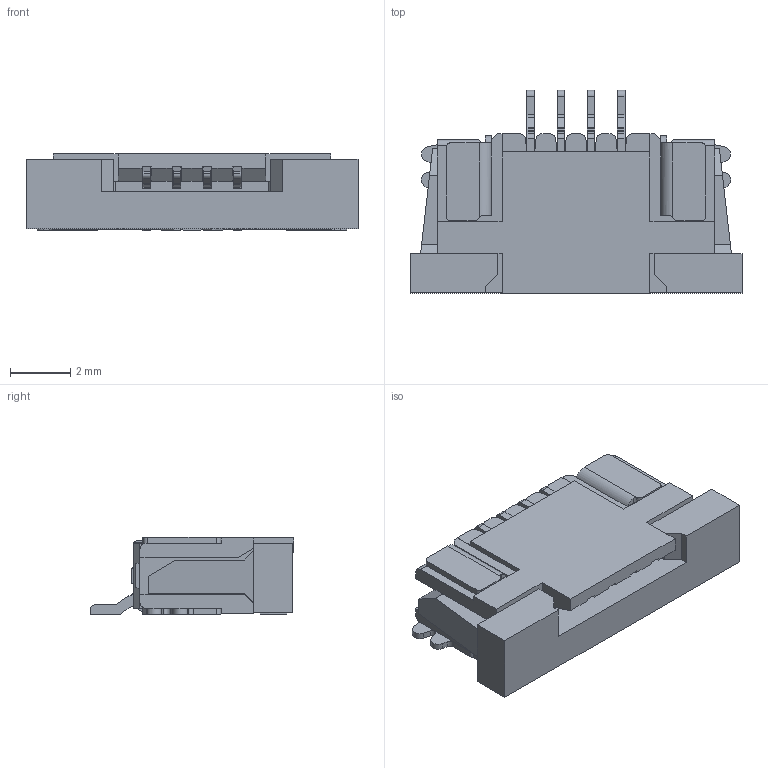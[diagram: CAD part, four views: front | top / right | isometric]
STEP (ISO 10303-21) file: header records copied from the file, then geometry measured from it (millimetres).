
FILE_DESCRIPTION((''),'2;1');
FILE_NAME('1_0K-ES-4PWB_ASM','2026-05-13T',('PMT1 SFT'),(''),'PRO/ENGINEER BY PARAMETRIC TECHNOLOGY CORPORATION, 2011490','PRO/ENGINEER BY PARAMETRIC TECHNOLOGY CORPORATION, 2011490','');
FILE_SCHEMA(('CONFIG_CONTROL_DESIGN'));
Length unit declared in the file: millimetre
Products named in the file (10): MANIFOLD_SOLID_BREP_130; MANIFOLD_SOLID_BREP_131; MANIFOLD_SOLID_BREP_132; MANIFOLD_SOLID_BREP_133; MANIFOLD_SOLID_BREP_134; MANIFOLD_SOLID_BREP_135; MANIFOLD_SOLID_BREP_136; MANIFOLD_SOLID_BREP_137; 1_0K-ES-NPWB_ASM; 1_0K-ES-4PWB_ASM
Assembly tree (9 placements, depth 3):
  1_0K-ES-4PWB_ASM
    1_0K-ES-NPWB_ASM
      MANIFOLD_SOLID_BREP_130
      MANIFOLD_SOLID_BREP_131
      MANIFOLD_SOLID_BREP_132
      MANIFOLD_SOLID_BREP_133
      MANIFOLD_SOLID_BREP_134
      MANIFOLD_SOLID_BREP_135
      MANIFOLD_SOLID_BREP_136
      MANIFOLD_SOLID_BREP_137
Bounding box: 11 x 6.75 x 2.58 mm (x, y, z)
Volume: 108.7 mm3; surface area: 483.9 mm2
Topology: 8 solids, 8 shells, 649 faces, 1907 edges, 1277 vertices
Faces by surface type: plane 418, cylinder 211, extrusion 8, bspline 8, torus 4
Entity records: 22243 total; most frequent: CARTESIAN_POINT 4353, ORIENTED_EDGE 3814, DIRECTION 3625, EDGE_CURVE 1907, VECTOR 1433, LINE 1425, VERTEX_POINT 1277, AXIS2_PLACEMENT_3D 1096
